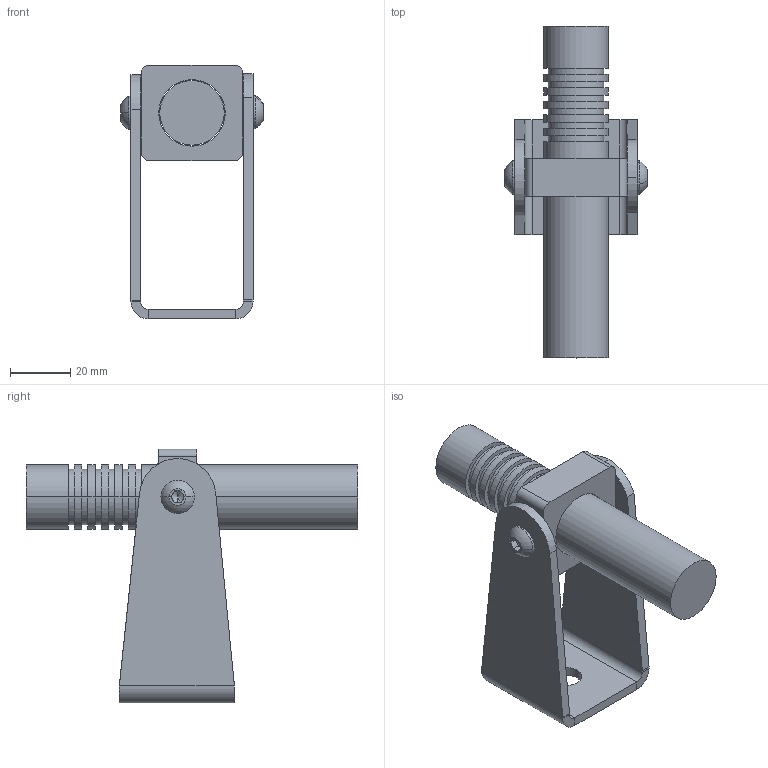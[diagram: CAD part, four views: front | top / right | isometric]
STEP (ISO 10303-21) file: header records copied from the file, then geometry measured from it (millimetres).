
FILE_DESCRIPTION (( 'STEP AP203' ), '1' );
FILE_NAME ('LZRWL-CRN-RED-200MW.STEP', '2018-12-03T22:12:03', ( '' ), ( '' ), 'SwSTEP 2.0', 'SolidWorks 2016', '' );
FILE_SCHEMA (( 'CONFIG_CONTROL_DESIGN' ));
Length unit declared in the file: inch
Products named in the file (5): Laser Bracket_Laser Bracket; LZRWL-CRN-RED-200MW; socket button head cap screw_ai_SBHCSCREW 0.25-20x0.5-HX-N; Laser; Laser Mount .87''''_Laser Mount
Assembly tree (5 placements, depth 2):
  LZRWL-CRN-RED-200MW
    Laser Bracket_Laser Bracket
    Laser Mount .87''''_Laser Mount
    socket button head cap screw_ai_SBHCSCREW 0.25-20x0.5-HX-N  x2
    Laser
Bounding box: 47.22 x 110.17 x 84.27 mm (x, y, z)
Volume: 66794.1 mm3; surface area: 27818.5 mm2
Topology: 6 solids, 6 shells, 149 faces, 327 edges, 204 vertices
Faces by surface type: plane 74, cylinder 63, cone 8, sphere 4
Entity records: 4092 total; most frequent: CARTESIAN_POINT 684, DIRECTION 657, ORIENTED_EDGE 538, EDGE_CURVE 269, AXIS2_PLACEMENT_3D 260, VERTEX_POINT 171, EDGE_LOOP 152, VECTOR 137
